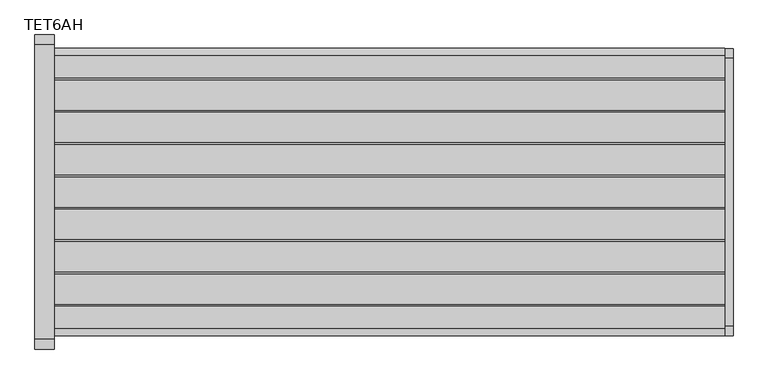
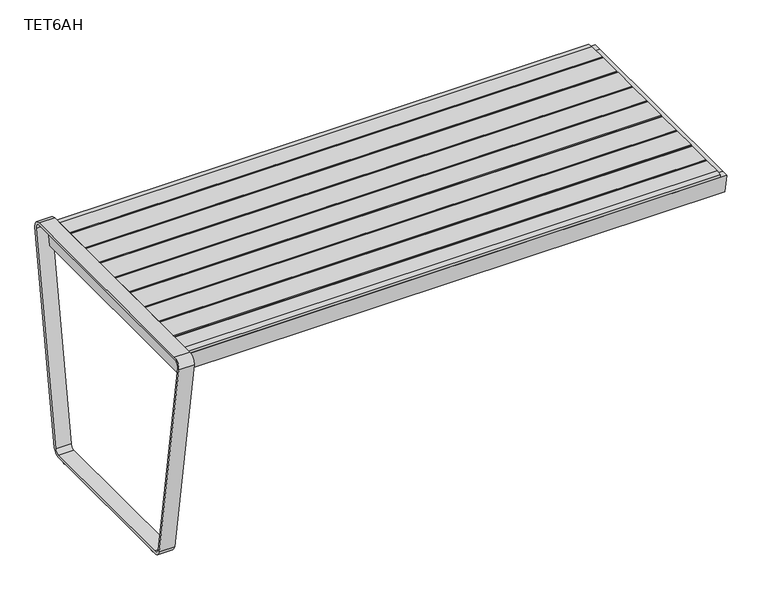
"""IFC4 building model written with IfcOpenShell, lengths in millimetres: furniture geometry, Stance_HC-Terrace-Table_HDPE : TET6AH."""

from ifc_helpers import new_model, si_unit, point, frame, frame_2d, origin, origin_with_axes, place, context, project, spatial, polyline, circle_curve, trimmed, segment, composite_curve, outline, extrude, faceted_brep, source, transform, mapped, element, save


def tet6ah_e9848967(model_context):
    return source(origin(), model_context, "Body", "SolidModel", [
        extrude(outline(polyline([(1441.45, 466.6001935), (1441.45, -283.1265265), (1352.55, -283.1265265), (1352.55, 466.6001935), (1441.45, 466.6001935)])), frame((0.0, 0.0, 752.475), z_axis=(0.0, 0.0, 1.0), x_axis=(1.0, 0.0, 0.0)), (0.0, 0.0, 1.0), 3.175),
        extrude(outline(composite_curve([segment(polyline([(-283.1265265, 752.475), (466.6001935, 752.475), (455.9632684, 692.15)]), True, "CONTINUOUS"), segment(trimmed(circle_curve(frame_2d((91.7368335, 7651.2140549)), 6968.5890549), [point((455.9632684, 692.15))], [point((-272.4896014, 692.15))], False, "CARTESIAN"), True, "CONTINUOUS"), segment(polyline([(-272.4896014, 692.15), (-283.1265265, 752.475)]), True, "CONTINUOUS")], self_intersect=False)), frame((1394.6124, 0.0, 0.0), z_axis=(1.0, 0.0, 0.0), x_axis=(0.0, 1.0, 0.0)), (0.0, 0.0, 1.0), 4.7752),
        extrude(outline(polyline([(1212.85, 466.6001935), (1212.85, -283.1265265), (1123.95, -283.1265265), (1123.95, 466.6001935), (1212.85, 466.6001935)])), frame((0.0, 0.0, 752.475), z_axis=(0.0, 0.0, 1.0), x_axis=(1.0, 0.0, 0.0)), (0.0, 0.0, 1.0), 3.175),
        extrude(outline(composite_curve([segment(polyline([(-283.1265265, 752.475), (466.6001935, 752.475), (455.9632684, 692.15)]), True, "CONTINUOUS"), segment(trimmed(circle_curve(frame_2d((91.7368335, 7651.2140549)), 6968.5890549), [point((455.9632684, 692.15))], [point((-272.4896014, 692.15))], False, "CARTESIAN"), True, "CONTINUOUS"), segment(polyline([(-272.4896014, 692.15), (-283.1265265, 752.475)]), True, "CONTINUOUS")], self_intersect=False)), frame((1166.0124, 0.0, 0.0), z_axis=(1.0, 0.0, 0.0), x_axis=(0.0, 1.0, 0.0)), (0.0, 0.0, 1.0), 4.7752),
        extrude(outline(polyline([(984.25, 466.6001935), (984.25, -283.1265265), (895.35, -283.1265265), (895.35, 466.6001935), (984.25, 466.6001935)])), frame((0.0, 0.0, 752.475), z_axis=(0.0, 0.0, 1.0), x_axis=(1.0, 0.0, 0.0)), (0.0, 0.0, 1.0), 3.175),
        extrude(outline(composite_curve([segment(polyline([(-283.1265265, 752.475), (466.6001935, 752.475), (455.9632684, 692.15)]), True, "CONTINUOUS"), segment(trimmed(circle_curve(frame_2d((91.7368335, 7651.2140549)), 6968.5890549), [point((455.9632684, 692.15))], [point((-272.4896014, 692.15))], False, "CARTESIAN"), True, "CONTINUOUS"), segment(polyline([(-272.4896014, 692.15), (-283.1265265, 752.475)]), True, "CONTINUOUS")], self_intersect=False)), frame((937.4124, 0.0, 0.0), z_axis=(1.0, 0.0, 0.0), x_axis=(0.0, 1.0, 0.0)), (0.0, 0.0, 1.0), 4.7752),
        extrude(outline(polyline([(755.65, 466.6001935), (755.65, -283.1265265), (666.75, -283.1265265), (666.75, 466.6001935), (755.65, 466.6001935)])), frame((0.0, 0.0, 752.475), z_axis=(0.0, 0.0, 1.0), x_axis=(1.0, 0.0, 0.0)), (0.0, 0.0, 1.0), 3.175),
        extrude(outline(composite_curve([segment(polyline([(-283.1265265, 752.475), (466.6001935, 752.475), (455.9632684, 692.15)]), True, "CONTINUOUS"), segment(trimmed(circle_curve(frame_2d((91.7368335, 7651.2140549)), 6968.5890549), [point((455.9632684, 692.15))], [point((-272.4896014, 692.15))], False, "CARTESIAN"), True, "CONTINUOUS"), segment(polyline([(-272.4896014, 692.15), (-283.1265265, 752.475)]), True, "CONTINUOUS")], self_intersect=False)), frame((708.8124, 0.0, 0.0), z_axis=(1.0, 0.0, 0.0), x_axis=(0.0, 1.0, 0.0)), (0.0, 0.0, 1.0), 4.7752),
        extrude(outline(polyline([(527.05, 466.6001935), (527.05, -283.1265265), (438.15, -283.1265265), (438.15, 466.6001935), (527.05, 466.6001935)])), frame((0.0, 0.0, 752.475), z_axis=(0.0, 0.0, 1.0), x_axis=(1.0, 0.0, 0.0)), (0.0, 0.0, 1.0), 3.175),
        extrude(outline(composite_curve([segment(polyline([(-283.1265265, 752.475), (466.6001935, 752.475), (455.9632684, 692.15)]), True, "CONTINUOUS"), segment(trimmed(circle_curve(frame_2d((91.7368335, 7651.2140549)), 6968.5890549), [point((455.9632684, 692.15))], [point((-272.4896014, 692.15))], False, "CARTESIAN"), True, "CONTINUOUS"), segment(polyline([(-272.4896014, 692.15), (-283.1265265, 752.475)]), True, "CONTINUOUS")], self_intersect=False)), frame((480.2124, 0.0, 0.0), z_axis=(1.0, 0.0, 0.0), x_axis=(0.0, 1.0, 0.0)), (0.0, 0.0, 1.0), 4.7752),
        extrude(outline(polyline([(1670.05, 466.6001935), (1670.05, -283.1265265), (1581.15, -283.1265265), (1581.15, 466.6001935), (1670.05, 466.6001935)])), frame((0.0, 0.0, 752.475), z_axis=(0.0, 0.0, 1.0), x_axis=(1.0, 0.0, 0.0)), (0.0, 0.0, 1.0), 3.175),
        extrude(outline(composite_curve([segment(polyline([(-283.1265265, 752.475), (466.6001935, 752.475), (455.9632684, 692.15)]), True, "CONTINUOUS"), segment(trimmed(circle_curve(frame_2d((91.7368335, 7651.2140549)), 6968.5890549), [point((455.9632684, 692.15))], [point((-272.4896014, 692.15))], False, "CARTESIAN"), True, "CONTINUOUS"), segment(polyline([(-272.4896014, 692.15), (-283.1265265, 752.475)]), True, "CONTINUOUS")], self_intersect=False)), frame((1623.2124, 0.0, 0.0), z_axis=(1.0, 0.0, 0.0), x_axis=(0.0, 1.0, 0.0)), (0.0, 0.0, 1.0), 4.7752),
        extrude(outline(polyline([(298.45, 466.6001935), (298.45, -283.1265265), (209.55, -283.1265265), (209.55, 466.6001935), (298.45, 466.6001935)])), frame((0.0, 0.0, 752.475), z_axis=(0.0, 0.0, 1.0), x_axis=(1.0, 0.0, 0.0)), (0.0, 0.0, 1.0), 3.175),
        extrude(outline(composite_curve([segment(polyline([(-283.1265265, 752.475), (466.6001935, 752.475), (455.9632684, 692.15)]), True, "CONTINUOUS"), segment(trimmed(circle_curve(frame_2d((91.7368335, 7651.2140549)), 6968.5890549), [point((455.9632684, 692.15))], [point((-272.4896014, 692.15))], False, "CARTESIAN"), True, "CONTINUOUS"), segment(polyline([(-272.4896014, 692.15), (-283.1265265, 752.475)]), True, "CONTINUOUS")], self_intersect=False)), frame((251.6124, 0.0, 0.0), z_axis=(1.0, 0.0, 0.0), x_axis=(0.0, 1.0, 0.0)), (0.0, 0.0, 1.0), 4.7752),
        extrude(outline(composite_curve([segment(trimmed(circle_curve(frame_2d((25.4, 346.0495496)), 22.225), [point((3.175, 346.0495496))], [point((47.625, 346.0495496))], False, "CARTESIAN"), True, "CONTINUOUS"), segment(trimmed(circle_curve(frame_2d((25.4, 346.0495496)), 22.225), [point((47.625, 346.0495496))], [point((3.175, 346.0495496))], False, "CARTESIAN"), True, "CONTINUOUS")], self_intersect=False)), origin_with_axes(), (0.0, 0.0, 1.0), 6.35),
        extrude(outline(composite_curve([segment(trimmed(circle_curve(frame_2d((25.4, -161.9504504)), 22.225), [point((3.175, -161.9504504))], [point((47.625, -161.9504504))], False, "CARTESIAN"), True, "CONTINUOUS"), segment(trimmed(circle_curve(frame_2d((25.4, -161.9504504)), 22.225), [point((47.625, -161.9504504))], [point((3.175, -161.9504504))], False, "CARTESIAN"), True, "CONTINUOUS")], self_intersect=False)), origin_with_axes(), (0.0, 0.0, 1.0), 6.35),
        extrude(outline(polyline([(461.2929482, 692.15), (-277.1938489, 692.15), (-288.9504504, 758.825), (473.0495496, 758.825), (461.2929482, 692.15)])), frame((22.225, 0.0, 0.0), z_axis=(1.0, 0.0, 0.0), x_axis=(0.0, 1.0, 0.0)), (0.0, 0.0, 1.0), 6.35),
        extrude(outline(composite_curve([segment(polyline([(-298.9301104, 768.35), (483.0292096, 768.35)]), True, "CONTINUOUS"), segment(trimmed(circle_curve(frame_2d((483.0292096, 742.95)), 25.4), [point((483.0292096, 768.35))], [point((508.1164935, 738.9765646))], False, "CARTESIAN"), True, "CONTINUOUS"), segment(polyline([(508.1164935, 738.9765646), (395.4734795, 27.7765646)]), True, "CONTINUOUS"), segment(trimmed(circle_curve(frame_2d((370.3861957, 31.75)), 25.4), [point((395.4734795, 27.7765646))], [point((370.3861957, 6.35))], False, "CARTESIAN"), True, "CONTINUOUS"), segment(polyline([(370.3861957, 6.35), (-186.2870964, 6.35)]), True, "CONTINUOUS"), segment(trimmed(circle_curve(frame_2d((-186.2870964, 31.75)), 25.4), [point((-186.2870964, 6.35))], [point((-211.3743803, 27.7765646))], False, "CARTESIAN"), True, "CONTINUOUS"), segment(polyline([(-211.3743803, 27.7765646), (-324.0173942, 738.9765646)]), True, "CONTINUOUS"), segment(trimmed(circle_curve(frame_2d((-298.9301104, 742.95)), 25.4), [point((-324.0173942, 738.9765646))], [point((-298.9301104, 768.35))], False, "CARTESIAN"), True, "CONTINUOUS")], self_intersect=False), holes=[composite_curve([segment(polyline([(386.0657481, 29.2666029), (498.708762, 740.4666029)]), True, "CONTINUOUS"), segment(trimmed(circle_curve(frame_2d((483.0292096, 742.95)), 15.875), [point((498.708762, 740.4666029))], [point((483.0292096, 758.825))], True, "CARTESIAN"), True, "CONTINUOUS"), segment(polyline([(483.0292096, 758.825), (-298.9301104, 758.825)]), True, "CONTINUOUS"), segment(trimmed(circle_curve(frame_2d((-298.9301104, 742.95)), 15.875), [point((-298.9301104, 758.825))], [point((-314.6096628, 740.4666029))], True, "CARTESIAN"), True, "CONTINUOUS"), segment(polyline([(-314.6096628, 740.4666029), (-201.9666488, 29.2666029)]), True, "CONTINUOUS"), segment(trimmed(circle_curve(frame_2d((-186.2870964, 31.75)), 15.875), [point((-201.9666488, 29.2666029))], [point((-186.2870964, 15.875))], True, "CARTESIAN"), True, "CONTINUOUS"), segment(polyline([(-186.2870964, 15.875), (370.3861957, 15.875)]), True, "CONTINUOUS"), segment(trimmed(circle_curve(frame_2d((370.3861957, 31.75)), 15.875), [point((370.3861957, 15.875))], [point((386.0657481, 29.2666029))], True, "CARTESIAN"), True, "CONTINUOUS")], self_intersect=False)]), frame((0.0, 0.0, 0.0), z_axis=(1.0, 0.0, 0.0), x_axis=(0.0, 1.0, 0.0)), (0.0, 0.0, 1.0), 50.8),
        faceted_brep([(50.8, -263.1223339, 752.475), (50.8, -263.1223339, 755.65), (28.575, -263.1223339, 755.65), (28.575, -263.1223339, 752.475), (33.3375, -263.1223339, 752.475), (28.575, 446.5960009, 752.475), (28.575, 446.5960009, 755.65), (50.8, 446.5960009, 755.65), (50.8, 446.5960009, 752.475), (33.3375, 446.5960009, 752.475), (28.575, 467.1615335, 752.475), (28.575, 456.5246084, 692.15), (28.575, -273.0509414, 692.15), (28.575, -283.6878665, 752.475), (33.3375, -283.6878665, 752.475), (33.3375, -273.0509414, 692.15), (33.3375, 456.5246084, 692.15), (33.3375, 467.1615335, 752.475)], [[[0, 1, 2, 3, 4]], [[5, 6, 7, 8, 9]], [[8, 0, 4, 9]], [[3, 2, 6, 5, 10, 11, 12, 13]], [[2, 1, 7, 6]], [[1, 0, 8, 7]], [[14, 15, 16, 17, 9, 4]], [[15, 14, 13, 12]], [[16, 15, 12, 11]], [[17, 16, 11, 10]], [[13, 14, 4, 3]], [[17, 10, 5, 9]]]),
        faceted_brep([(1851.025, -263.1223339, 752.475), (1851.025, -263.1223339, 755.65), (1828.8, -263.1223339, 755.65), (1828.8, -263.1223339, 752.475), (1847.85, -263.1223339, 752.475), (1828.8, 446.5960009, 752.475), (1828.8, 446.5960009, 755.65), (1851.025, 446.5960009, 755.65), (1851.025, 446.5960009, 752.475), (1847.85, 446.5960009, 752.475), (1847.85, 467.1615335, 752.475), (1847.85, 456.5246084, 692.15), (1847.85, -273.0509414, 692.15), (1847.85, -283.6878665, 752.475), (1851.025, -273.0509414, 692.15), (1851.025, -283.6878665, 752.475), (1851.025, 456.5246084, 692.15), (1851.025, 467.1615335, 752.475)], [[[0, 1, 2, 3, 4]], [[5, 6, 7, 8, 9]], [[10, 11, 12, 13, 4, 9]], [[13, 12, 14, 15]], [[12, 11, 16, 14]], [[11, 10, 17, 16]], [[13, 15, 0, 4]], [[17, 10, 9, 8]], [[3, 5, 9, 4]], [[1, 0, 15, 14, 16, 17, 8, 7]], [[2, 1, 7, 6]], [[3, 2, 6, 5]]]),
        extrude(outline(polyline([(394.9493335, 768.35), (453.6868335, 768.35), (472.7368335, 765.3327764), (471.0294987, 755.65), (-287.5558318, 755.65), (-289.2631665, 765.3327764), (-270.2131665, 768.35), (-211.4756665, 768.35), (-211.4756665, 765.175), (-205.1256665, 765.175), (-205.1256665, 768.35), (-125.7506665, 768.35), (-125.7506665, 765.175), (-119.4006665, 765.175), (-119.4006665, 768.35), (-40.0256665, 768.35), (-40.0256665, 765.175), (-33.6756665, 765.175), (-33.6756665, 768.35), (45.6993335, 768.35), (45.6993335, 765.175), (52.0493335, 765.175), (52.0493335, 768.35), (131.4243335, 768.35), (131.4243335, 765.175), (137.7743335, 765.175), (137.7743335, 768.35), (217.1493335, 768.35), (217.1493335, 765.175), (223.4993335, 765.175), (223.4993335, 768.35), (302.8743335, 768.35), (302.8743335, 765.175), (309.2243335, 765.175), (309.2243335, 768.35), (388.5993335, 768.35), (388.5993335, 765.175), (394.9493335, 765.175), (394.9493335, 768.35)])), frame((50.8, 0.0, 0.0), z_axis=(1.0, 0.0, 0.0), x_axis=(0.0, 1.0, 0.0)), (0.0, 0.0, 1.0), 1778.0),
        extrude(outline(polyline([(-277.1797483, 691.3230006), (-288.5223339, 755.65), (-263.1223339, 755.65), (-263.1223339, 750.8875), (-282.8466074, 750.8875), (-272.4896014, 692.15), (-277.1797483, 691.3230006)])), frame((28.575, 0.0, 0.0), z_axis=(1.0, 0.0, 0.0), x_axis=(0.0, 1.0, 0.0)), (0.0, 0.0, 1.0), 1822.45),
        extrude(outline(polyline([(460.6534153, 691.3230006), (455.9632684, 692.15), (466.3202744, 750.8875), (446.5960009, 750.8875), (446.5960009, 755.65), (471.9960009, 755.65), (460.6534153, 691.3230006)])), frame((28.575, 0.0, 0.0), z_axis=(1.0, 0.0, 0.0), x_axis=(0.0, 1.0, 0.0)), (0.0, 0.0, 1.0), 1822.45),
    ])


if __name__ == "__main__":
    model = new_model("IFC4")
    model_context = context("Model", 3, world=origin())
    ifc_project = project(units=[si_unit("LENGTHUNIT", "METRE", prefix="MILLI")], contexts=[model_context])
    site = spatial("IfcSite", under=ifc_project)
    building = spatial("IfcBuilding", under=site)
    placement = place(None, origin())
    tet6ah_shape = tet6ah_e9848967(model_context)
    element("IfcFurniture", 1, ObjectType="Stance_HC-Terrace-Table_HDPE : TET6AH", at=placement, inside=building, context=model_context, shape_type="MappedRepresentation", body=[
        mapped(tet6ah_shape, transform((0.0, 0.0, 0.0), x_axis=(1.0, 0.0, 0.0), y_axis=(0.0, 1.0, 0.0), z_axis=(0.0, 0.0, 1.0))),
    ])
    save(model, "model.ifc")
